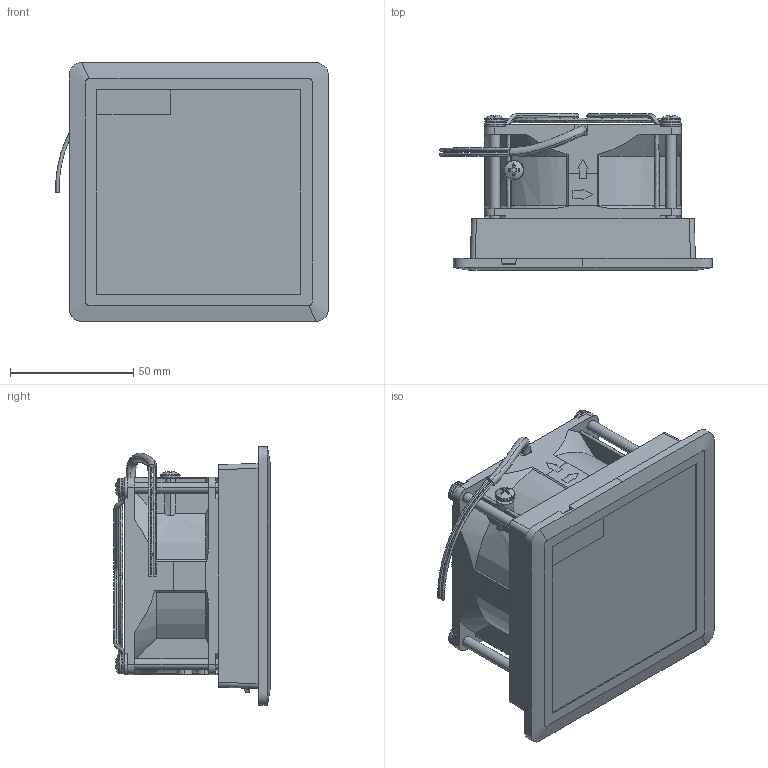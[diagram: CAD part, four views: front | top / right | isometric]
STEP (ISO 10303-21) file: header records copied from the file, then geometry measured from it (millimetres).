
FILE_DESCRIPTION(/* description */ (''),/* implementation_level */ '2;1');
FILE_NAME(/* name */ 'FPF08K~2',/* time_stamp */ '2019-09-06T15:19:48+02:00',/* author */ (''),/* organization */ (''),/* preprocessor_version */ 'ST-DEVELOPER v14',/* originating_system */ '',/* authorisation */ '');
FILE_SCHEMA (('CONFIG_CONTROL_DESIGN'));
Length unit declared in the file: millimetre
Products named in the file (1): Document
Bounding box: 110.56 x 63.4 x 105 mm (x, y, z)
Volume: 390746.8 mm3; surface area: 55394.3 mm2
Topology: 13 solids, 13 shells, 443 faces, 1213 edges, 800 vertices
Faces by surface type: bspline 254, plane 189
Entity records: 36183 total; most frequent: CARTESIAN_POINT 29059, ORIENTED_EDGE 2414, EDGE_CURVE 1207, VERTEX_POINT 800, B_SPLINE_CURVE_WITH_KNOTS 600, EDGE_LOOP 479, ADVANCED_FACE 443, FACE_OUTER_BOUND 443
